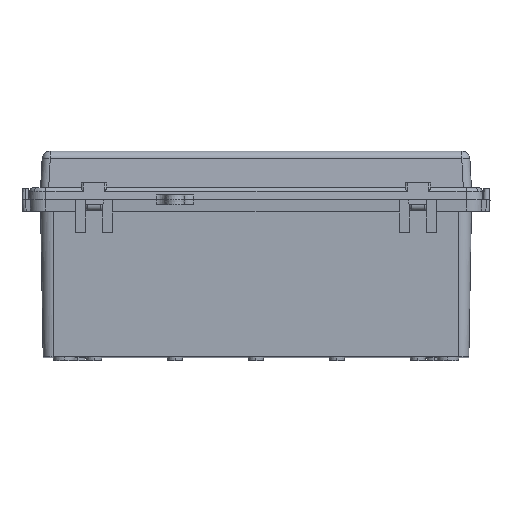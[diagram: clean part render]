
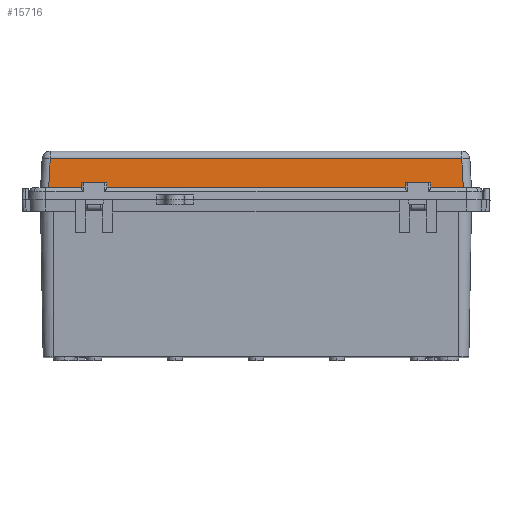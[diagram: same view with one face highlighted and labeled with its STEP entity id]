
A CAD part, top view. The second image highlights one B-rep face of the part: STEP entity #15716.
In plain terms, the highlighted planar face has unit normal (0, 0.052, 0.999).
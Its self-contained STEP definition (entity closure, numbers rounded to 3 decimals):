
#443 = LINE ( 'NONE', #18029, #16532 ) ;
#4163 = EDGE_CURVE ( 'NONE', #25101, #17750, #443, .T. ) ;
#4225 = CARTESIAN_POINT ( 'NONE',  ( 133., 7.5, 133. ) ) ;
#4438 = CARTESIAN_POINT ( 'NONE',  ( -127.076, 25.262, 132.069 ) ) ;
#4885 = VECTOR ( 'NONE', #9518, 1000. ) ;
#7042 = VERTEX_POINT ( 'NONE', #26503 ) ;
#7632 = CARTESIAN_POINT ( 'NONE',  ( -127.294, 21.104, 132.287 ) ) ;
#8580 = LINE ( 'NONE', #16860, #9130 ) ;
#8953 = VERTEX_POINT ( 'NONE', #10957 ) ;
#9130 = VECTOR ( 'NONE', #10755, 1000. ) ;
#9518 = DIRECTION ( 'NONE',  ( -1., 0., 0. ) ) ;
#10074 = DIRECTION ( 'NONE',  ( 0., -0.999, 0.052 ) ) ;
#10156 = ORIENTED_EDGE ( 'NONE', *, *, #4163, .T. ) ;
#10755 = DIRECTION ( 'NONE',  ( -0.052, 0.997, -0.052 ) ) ;
#10957 = CARTESIAN_POINT ( 'NONE',  ( -128.007, 7.5, 133. ) ) ;
#15716 = ADVANCED_FACE ( 'NONE', ( #16432 ), #22782, .T. ) ;
#15771 = LINE ( 'NONE', #7632, #19827 ) ;
#15907 = DIRECTION ( 'NONE',  ( -0.052, -0.997, 0.052 ) ) ;
#16432 = FACE_OUTER_BOUND ( 'NONE', #25046, .T. ) ;
#16532 = VECTOR ( 'NONE', #23851, 1000. ) ;
#16860 = CARTESIAN_POINT ( 'NONE',  ( 128.02, 7.24, 133.014 ) ) ;
#17750 = VERTEX_POINT ( 'NONE', #4438 ) ;
#18029 = CARTESIAN_POINT ( 'NONE',  ( 133., 25.262, 132.069 ) ) ;
#18426 = ORIENTED_EDGE ( 'NONE', *, *, #22898, .T. ) ;
#19807 = CARTESIAN_POINT ( 'NONE',  ( 133., 7.5, 133. ) ) ;
#19827 = VECTOR ( 'NONE', #15907, 1000. ) ;
#19892 = ORIENTED_EDGE ( 'NONE', *, *, #25350, .T. ) ;
#20340 = LINE ( 'NONE', #19807, #4885 ) ;
#20376 = CARTESIAN_POINT ( 'NONE',  ( 127.076, 25.262, 132.069 ) ) ;
#20879 = DIRECTION ( 'NONE',  ( 0., 0.052, 0.999 ) ) ;
#21075 = AXIS2_PLACEMENT_3D ( 'NONE', #4225, #20879, #10074 ) ;
#22782 = PLANE ( 'NONE',  #21075 ) ;
#22898 = EDGE_CURVE ( 'NONE', #17750, #8953, #15771, .T. ) ;
#23851 = DIRECTION ( 'NONE',  ( -1., 0., 0. ) ) ;
#25046 = EDGE_LOOP ( 'NONE', ( #19892, #10156, #18426, #26240 ) ) ;
#25101 = VERTEX_POINT ( 'NONE', #20376 ) ;
#25350 = EDGE_CURVE ( 'NONE', #7042, #25101, #8580, .T. ) ;
#26240 = ORIENTED_EDGE ( 'NONE', *, *, #26534, .F. ) ;
#26503 = CARTESIAN_POINT ( 'NONE',  ( 128.007, 7.5, 133. ) ) ;
#26534 = EDGE_CURVE ( 'NONE', #7042, #8953, #20340, .T. ) ;
